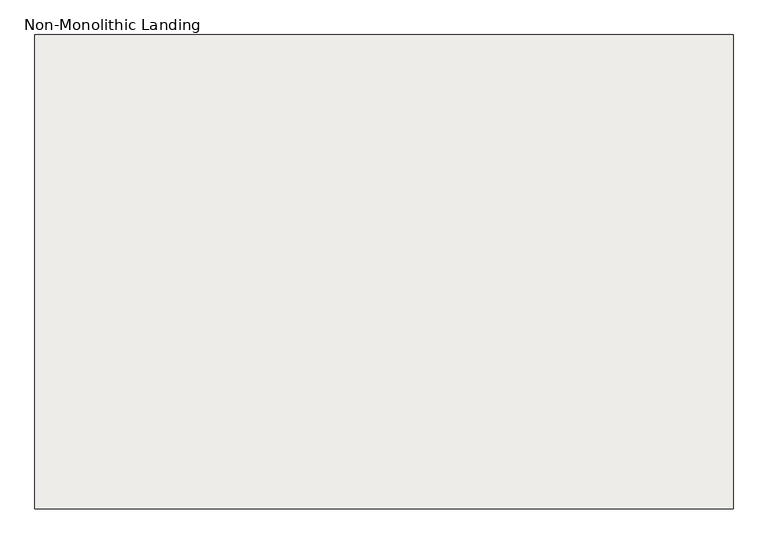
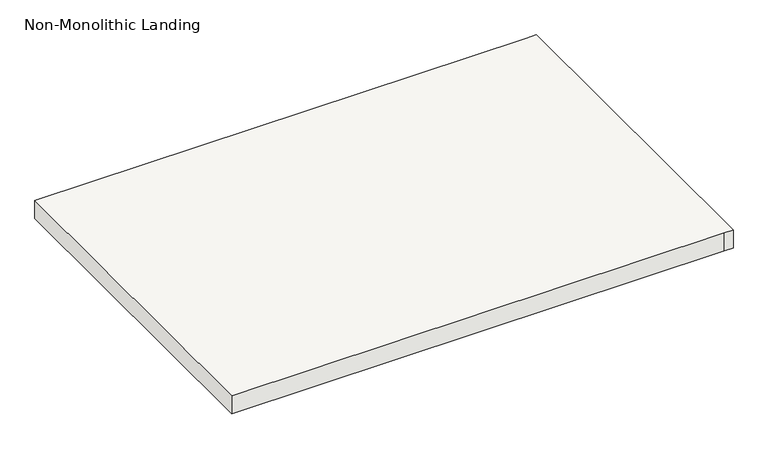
"""IFC4 building model written with IfcOpenShell, lengths in millimetres: slab geometry, Non-Monolithic Landing."""

import ifcopenshell
import ifcopenshell.guid

model = None  # the IFC model being written
_history = None  # IfcOwnerHistory: only IFC2X3 demands one
_inside = {}  # id of a spatial element -> (the spatial element, [elements in it])
_under = {}  # id of a project, library or spatial element -> (it, [spatial elements below it])
_declared = {}  # id of a project -> (the project, [libraries it declares])
_typed = {}  # id of a type object -> (the type object, [elements of that type])
_made_of = {}  # id of a material, layer set ... -> (it, [elements and type objects made of it])


def new_model(schema):
    """Start an empty IFC model of exactly this schema.

    Asked for "IFC4X3", IfcOpenShell would pick the latest addendum, in which some entities
    have other attributes; the version numbers below select the first issue.
    IFC2X3 requires an IfcOwnerHistory on every rooted entity: one is made here for all.
    """
    global model, _history
    if schema == "IFC4X3":
        model = ifcopenshell.file(schema_version=(4, 3, 0, 0))
    else:
        model = ifcopenshell.file(schema=schema)
    _inside.clear()
    _under.clear()
    _declared.clear()
    _typed.clear()
    _made_of.clear()
    _history = None
    if model.schema == "IFC2X3":
        org = make("IfcOrganization", Name="unknown")
        user = make(
            "IfcPersonAndOrganization",
            ThePerson=make("IfcPerson", FamilyName="unknown"),
            TheOrganization=org,
        )
        app = make(
            "IfcApplication",
            ApplicationDeveloper=org,
            Version="unknown",
            ApplicationFullName="unknown",
            ApplicationIdentifier="unknown",
        )
        _history = make(
            "IfcOwnerHistory",
            OwningUser=user,
            OwningApplication=app,
            ChangeAction="ADDED",
            CreationDate=0,
        )
    return model


def make(cls, **values):
    """One entity of the class cls with the attributes given. An attribute that is None is left unset."""
    return model.create_entity(
        cls, **{name: value for name, value in values.items() if value is not None}
    )


def rooted(cls, **values):
    """An entity with a GlobalId (a new one), such as an element, a storey or a relation."""
    return make(cls, GlobalId=ifcopenshell.guid.new(), OwnerHistory=_history, **values)


def si_unit(unit_type, name, prefix=None):
    """IfcSIUnit, for example si_unit("LENGTHUNIT", "METRE", prefix="MILLI")."""
    return make("IfcSIUnit", UnitType=unit_type, Prefix=prefix, Name=name)


def assignment(units):
    """IfcUnitAssignment: the units of a project."""
    return None if units is None else make("IfcUnitAssignment", Units=units)


def point(xyz):
    """IfcCartesianPoint."""
    return None if xyz is None else make("IfcCartesianPoint", Coordinates=xyz)


def direction(xyz):
    """IfcDirection."""
    return None if xyz is None else make("IfcDirection", DirectionRatios=xyz)


def frame(location, z_axis=None, x_axis=None):
    """IfcAxis2Placement3D, a coordinate frame: its origin and axes. An axis left out is left unset."""
    return make(
        "IfcAxis2Placement3D",
        Location=point(location),
        Axis=direction(z_axis),
        RefDirection=direction(x_axis),
    )


def origin():
    """The frame at (0, 0, 0) with its axes left unset."""
    return frame((0.0, 0.0, 0.0))


def place(relative_to, where):
    """IfcLocalPlacement: puts the frame where relative to a parent placement (None: the world)."""
    return make(
        "IfcLocalPlacement", PlacementRelTo=relative_to, RelativePlacement=where
    )


def context(
    kind, dimensions, precision=None, world=None, true_north=None, identifier=None
):
    """IfcGeometricRepresentationContext, for example the 3D "Model" context."""
    return make(
        "IfcGeometricRepresentationContext",
        ContextIdentifier=identifier,
        ContextType=kind,
        CoordinateSpaceDimension=dimensions,
        Precision=precision,
        WorldCoordinateSystem=world,
        TrueNorth=true_north,
    )


def project(units=None, contexts=None):
    """IfcProject with its units and contexts."""
    return rooted(
        "IfcProject",
        Name="project",
        RepresentationContexts=contexts,
        UnitsInContext=assignment(units),
    )


def spatial(cls, under=None, at=None, **own):
    """A site, building, storey or space (cls), placed at a placement, below another one or the project."""
    s = rooted(cls, ObjectPlacement=at, **own)
    if under is not None:
        _under.setdefault(under.id(), (under, []))[1].append(s)
    return s


def polyline(points):
    """IfcPolyline through the points."""
    return make("IfcPolyline", Points=[point(p) for p in points])


def outline(outer, holes=None, kind="AREA"):
    """IfcArbitraryClosedProfileDef: a profile drawn as a closed curve; with holes, ...WithVoids."""
    if holes is None:
        return make("IfcArbitraryClosedProfileDef", ProfileType=kind, OuterCurve=outer)
    return make(
        "IfcArbitraryProfileDefWithVoids",
        ProfileType=kind,
        OuterCurve=outer,
        InnerCurves=holes,
    )


def extrude(swept, where, along, depth):
    """IfcExtrudedAreaSolid: the profile swept, set in the frame where, extruded along a direction by depth."""
    return make(
        "IfcExtrudedAreaSolid",
        SweptArea=swept,
        Position=where,
        ExtrudedDirection=direction(along),
        Depth=depth,
    )


def shape(context_of_items, identifier, shape_type, items):
    """IfcShapeRepresentation: the items that make up one representation, for example the "Body"."""
    return make(
        "IfcShapeRepresentation",
        ContextOfItems=context_of_items,
        RepresentationIdentifier=identifier,
        RepresentationType=shape_type,
        Items=items,
    )


def source(mapping_origin, context_of_items, identifier, shape_type, items):
    """IfcRepresentationMap: a shape defined once, which mapped items show again and again."""
    return make(
        "IfcRepresentationMap",
        MappingOrigin=mapping_origin,
        MappedRepresentation=shape(context_of_items, identifier, shape_type, items),
    )


def transform(
    local_origin,
    x_axis=None,
    y_axis=None,
    z_axis=None,
    scale=None,
    scale2=None,
    scale3=None,
    uniform=True,
):
    """IfcCartesianTransformationOperator3D, or its non-uniform kind. x_axis, y_axis, z_axis: its Axis1, 2, 3."""
    if uniform:
        return make(
            "IfcCartesianTransformationOperator3D",
            Axis1=direction(x_axis),
            Axis2=direction(y_axis),
            LocalOrigin=point(local_origin),
            Scale=scale,
            Axis3=direction(z_axis),
        )
    return make(
        "IfcCartesianTransformationOperator3DnonUniform",
        Axis1=direction(x_axis),
        Axis2=direction(y_axis),
        LocalOrigin=point(local_origin),
        Scale=scale,
        Axis3=direction(z_axis),
        Scale2=scale2,
        Scale3=scale3,
    )


def mapped(mapping_source, mapping_target):
    """IfcMappedItem: shows the shape of a source again, moved by a transform."""
    return make(
        "IfcMappedItem", MappingSource=mapping_source, MappingTarget=mapping_target
    )


def made_of(thing, what):
    """Note that an element or type object is made of a material, layer set ...; save() writes the relation."""
    if what is not None:
        _made_of.setdefault(what.id(), (what, []))[1].append(thing)
    return thing


def element(
    cls,
    number,
    at=None,
    inside=None,
    cuts=None,
    type_object=None,
    material=None,
    context=None,
    identifier="Body",
    shape_type=None,
    held_by="IfcProductDefinitionShape",
    body=None,
    shapes=None,
    **own,
):
    """One element of the class cls, such as IfcWall. Its Tag is "e" and its number.

    at: its placement. inside: the storey or other place that contains it. cuts: it is an
    opening in that element (IfcRelVoidsElement). A single representation is given by context,
    identifier, shape_type and body (its items); several are given by shapes. held_by: the class
    of the entity that holds the representations. save() writes the other relations.
    """
    e = rooted(cls, Tag="e%d" % number, ObjectPlacement=at, **own)
    if body is not None:
        shapes = [shape(context, identifier, shape_type, body)]
    if shapes is not None:
        e.Representation = make(held_by, Representations=shapes)
    if inside is not None:
        _inside.setdefault(inside.id(), (inside, []))[1].append(e)
    if cuts is not None:
        rooted(
            "IfcRelVoidsElement", RelatingBuildingElement=cuts, RelatedOpeningElement=e
        )
    if type_object is not None:
        _typed.setdefault(type_object.id(), (type_object, []))[1].append(e)
    return made_of(e, material)


def aggregate(whole, parts):
    """IfcRelAggregates: a whole, such as a stair, and the parts it consists of."""
    return rooted("IfcRelAggregates", RelatingObject=whole, RelatedObjects=parts)


def save(model, path):
    """Write the relations noted so far, then the file.

    IfcRelAggregates (storeys below a building ...), IfcRelContainedInSpatialStructure (elements
    in a storey), IfcRelDefinesByType, IfcRelAssociatesMaterial and IfcRelDeclares: one each for
    every whole, place, type object, material and project.
    """
    for whole, parts in _under.values():
        aggregate(whole, parts)
    for where, things in _inside.values():
        rooted(
            "IfcRelContainedInSpatialStructure",
            RelatedElements=things,
            RelatingStructure=where,
        )
    for kind, things in _typed.values():
        rooted("IfcRelDefinesByType", RelatedObjects=things, RelatingType=kind)
    for what, things in _made_of.values():
        rooted("IfcRelAssociatesMaterial", RelatedObjects=things, RelatingMaterial=what)
    for by, libraries in _declared.values():
        rooted("IfcRelDeclares", RelatingContext=by, RelatedDefinitions=libraries)
    model.write(path)


def non_monolithic_landing_5d0e261f(model_context):
    return source(origin(), model_context, "Body", "SweptSolid", [
        extrude(outline(polyline([(-32569.67137, 15820.0177722), (-31248.87137, 15820.0177722), (-31223.47137, 15820.0177722), (-31223.47137, 14905.6177722), (-31248.87137, 14905.6177722), (-32569.67137, 14905.6177722), (-32569.67137, 15820.0177722)])), frame((0.0, 0.0, 2126.3428571), z_axis=(0.0, 0.0, 1.0), x_axis=(1.0, 0.0, 0.0)), (0.0, 0.0, 1.0), 50.8),
    ])


if __name__ == "__main__":
    model = new_model("IFC4")
    model_context = context("Model", 3, world=origin())
    ifc_project = project(units=[si_unit("LENGTHUNIT", "METRE", prefix="MILLI")], contexts=[model_context])
    site = spatial("IfcSite", under=ifc_project)
    building = spatial("IfcBuilding", under=site)
    placement = place(None, origin())
    non_monolithic_landing_shape = non_monolithic_landing_5d0e261f(model_context)
    element("IfcSlab", 1, ObjectType="Non-Monolithic Landing", at=placement, inside=building, context=model_context, shape_type="MappedRepresentation", body=[
        mapped(non_monolithic_landing_shape, transform((0.0, 0.0, 0.0), x_axis=(1.0, 0.0, 0.0), y_axis=(0.0, 1.0, 0.0), z_axis=(0.0, 0.0, 1.0))),
    ])
    save(model, "model.ifc")
